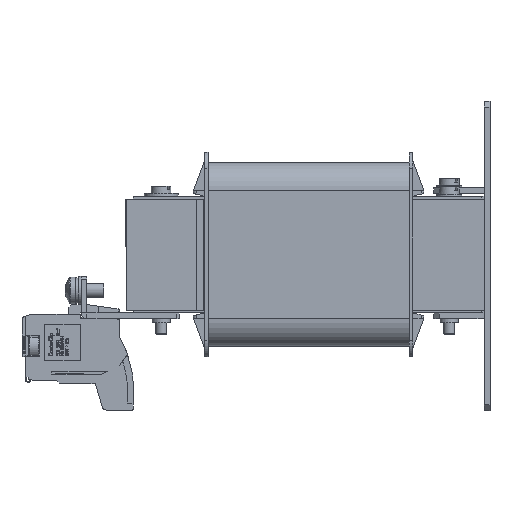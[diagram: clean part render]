
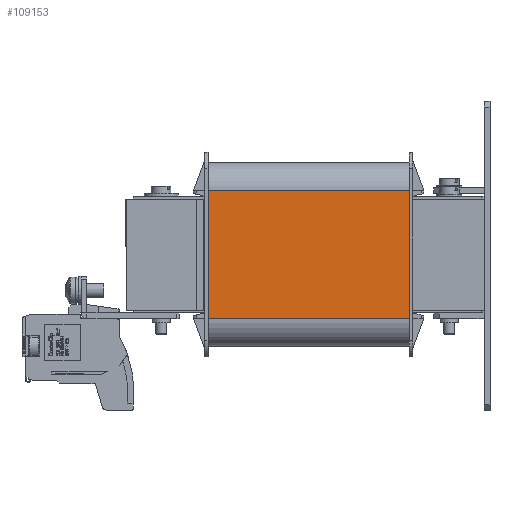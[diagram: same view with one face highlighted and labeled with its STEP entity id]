
A CAD part, left-side view. The second image highlights one B-rep face of the part: STEP entity #109153.
In plain terms, the highlighted planar face has unit normal (-1, 0, 0) as drawn and (0, 0, -1) by its records, which use the part's own axes.
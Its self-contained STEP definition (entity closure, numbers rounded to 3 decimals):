
#2517 = CARTESIAN_POINT ( 'NONE',  ( 22.75, 71.6, -24.8 ) ) ;
#5198 = EDGE_CURVE ( 'NONE', #89750, #72036, #67981, .T. ) ;
#14350 = AXIS2_PLACEMENT_3D ( 'NONE', #100243, #48968, #108805 ) ;
#15691 = CARTESIAN_POINT ( 'NONE',  ( -32.75, 0., -24.8 ) ) ;
#19953 = ORIENTED_EDGE ( 'NONE', *, *, #5198, .T. ) ;
#22103 = CARTESIAN_POINT ( 'NONE',  ( -32.75, 71.6, -24.8 ) ) ;
#24008 = DIRECTION ( 'NONE',  ( -1., 0., 0. ) ) ;
#28525 = VECTOR ( 'NONE', #100330, 1000. ) ;
#29833 = LINE ( 'NONE', #22103, #95437 ) ;
#38260 = VERTEX_POINT ( 'NONE', #74007 ) ;
#40809 = CARTESIAN_POINT ( 'NONE',  ( 22.75, 71.6, -24.8 ) ) ;
#47014 = DIRECTION ( 'NONE',  ( 0., 1., 0. ) ) ;
#48968 = DIRECTION ( 'NONE',  ( 0., 0., 1. ) ) ;
#55240 = LINE ( 'NONE', #15691, #75350 ) ;
#56733 = EDGE_CURVE ( 'NONE', #104559, #72036, #29833, .T. ) ;
#59007 = ORIENTED_EDGE ( 'NONE', *, *, #56733, .F. ) ;
#61689 = EDGE_CURVE ( 'NONE', #104559, #38260, #94088, .T. ) ;
#67981 = LINE ( 'NONE', #96024, #110834 ) ;
#72036 = VERTEX_POINT ( 'NONE', #110811 ) ;
#73340 = DIRECTION ( 'NONE',  ( -1., 0., 0. ) ) ;
#74007 = CARTESIAN_POINT ( 'NONE',  ( 22.75, 0., -24.8 ) ) ;
#75350 = VECTOR ( 'NONE', #24008, 1000. ) ;
#86535 = EDGE_CURVE ( 'NONE', #38260, #89750, #55240, .T. ) ;
#89750 = VERTEX_POINT ( 'NONE', #109886 ) ;
#91476 = ORIENTED_EDGE ( 'NONE', *, *, #61689, .T. ) ;
#91827 = ORIENTED_EDGE ( 'NONE', *, *, #86535, .T. ) ;
#94088 = LINE ( 'NONE', #40809, #28525 ) ;
#95437 = VECTOR ( 'NONE', #73340, 1000. ) ;
#96024 = CARTESIAN_POINT ( 'NONE',  ( -22.75, 71.6, -24.8 ) ) ;
#97589 = FACE_OUTER_BOUND ( 'NONE', #107405, .T. ) ;
#100243 = CARTESIAN_POINT ( 'NONE',  ( -32.75, 71.6, -24.8 ) ) ;
#100330 = DIRECTION ( 'NONE',  ( 0., -1., 0. ) ) ;
#104559 = VERTEX_POINT ( 'NONE', #2517 ) ;
#107405 = EDGE_LOOP ( 'NONE', ( #91827, #19953, #59007, #91476 ) ) ;
#108437 = PLANE ( 'NONE',  #14350 ) ;
#108805 = DIRECTION ( 'NONE',  ( 1., 0., 0. ) ) ;
#109153 = ADVANCED_FACE ( 'NONE', ( #97589 ), #108437, .F. ) ;
#109886 = CARTESIAN_POINT ( 'NONE',  ( -22.75, 0., -24.8 ) ) ;
#110811 = CARTESIAN_POINT ( 'NONE',  ( -22.75, 71.6, -24.8 ) ) ;
#110834 = VECTOR ( 'NONE', #47014, 1000. ) ;
